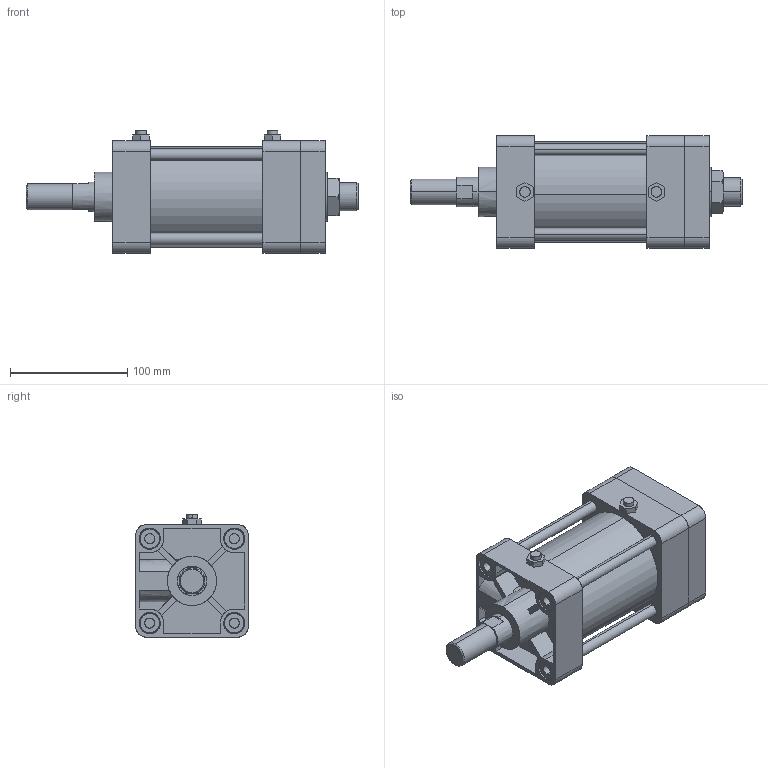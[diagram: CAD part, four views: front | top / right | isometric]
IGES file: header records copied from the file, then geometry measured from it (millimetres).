
Start section: SolidWorks IGES file using analytic representation for surfaces
Global section: file name: C:\Users\Toshiba\Desktop\KGA2-80#-50-N.IGS; native system: SolidWorks 2014; preprocessor: SolidWorks 2014; author: Toshiba; date: 160414.154443; units: millimetre
Bounding box: 283 x 96 x 104.3 mm (x, y, z)
Surface area: 201550.8 mm2 (no closed solid volume)
Topology: 0 solids, 0 shells, 348 faces, 5612 edges, 5608 vertices
Faces by surface type: bspline 186, revolution 162
